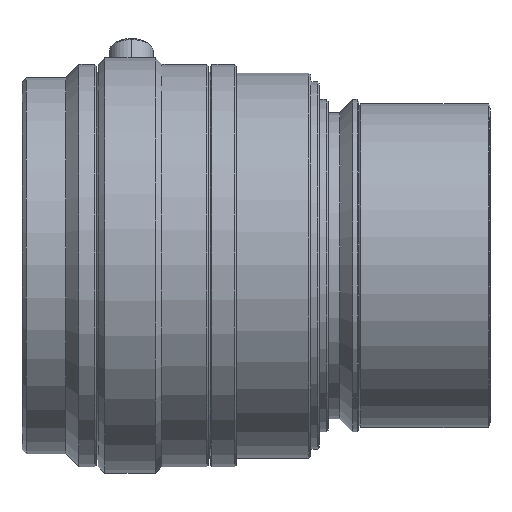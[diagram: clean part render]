
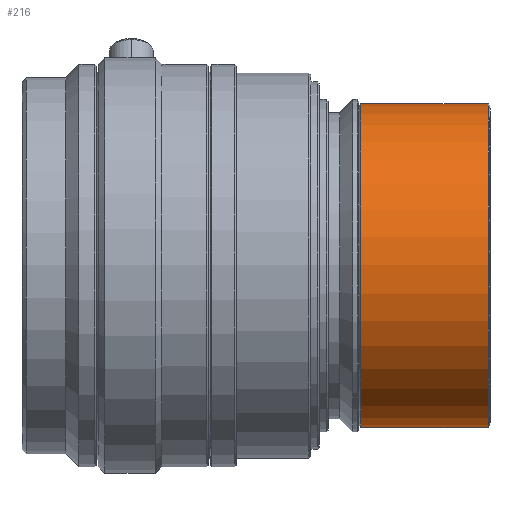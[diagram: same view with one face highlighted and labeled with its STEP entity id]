
A CAD part, top view. The second image highlights one B-rep face of the part: STEP entity #216.
In plain terms, the highlighted cylindrical face has radius 18.5 mm (diameter 37 mm), a partial arc.
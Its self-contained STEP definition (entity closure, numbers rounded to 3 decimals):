
#51 = EDGE_CURVE ( 'NONE', #1489, #254, #1299, .T. ) ;
#52 = EDGE_CURVE ( 'NONE', #1489, #1484, #1301, .T. ) ;
#56 = EDGE_CURVE ( 'NONE', #254, #1494, #1296, .T. ) ;
#58 = EDGE_CURVE ( 'NONE', #1484, #1494, #1302, .T. ) ;
#216 = ADVANCED_FACE ( 'NONE', ( #1888 ), #1892, .T. ) ;
#254 = VERTEX_POINT ( 'NONE', #2247 ) ;
#476 = ORIENTED_EDGE ( 'NONE', *, *, #51, .F. ) ;
#491 = ORIENTED_EDGE ( 'NONE', *, *, #58, .T. ) ;
#493 = ORIENTED_EDGE ( 'NONE', *, *, #56, .F. ) ;
#499 = ORIENTED_EDGE ( 'NONE', *, *, #52, .T. ) ;
#745 = AXIS2_PLACEMENT_3D ( 'NONE', #3123, #3124, #3125 ) ;
#748 = AXIS2_PLACEMENT_3D ( 'NONE', #3133, #3134, #3135 ) ;
#1132 = EDGE_LOOP ( 'NONE', ( #499, #491, #493, #476 ) ) ;
#1288 = VECTOR ( 'NONE', #3121, 1000. ) ;
#1296 = CIRCLE ( 'NONE', #748, 18.5 ) ;
#1299 = LINE ( 'NONE', #3120, #1288 ) ;
#1301 = CIRCLE ( 'NONE', #745, 18.5 ) ;
#1302 = LINE ( 'NONE', #3137, #1307 ) ;
#1307 = VECTOR ( 'NONE', #3132, 1000. ) ;
#1484 = VERTEX_POINT ( 'NONE', #2991 ) ;
#1489 = VERTEX_POINT ( 'NONE', #2996 ) ;
#1494 = VERTEX_POINT ( 'NONE', #3001 ) ;
#1610 = AXIS2_PLACEMENT_3D ( 'NONE', #2175, #2173, #2171 ) ;
#1888 = FACE_OUTER_BOUND ( 'NONE', #1132, .T. ) ;
#1892 = CYLINDRICAL_SURFACE ( 'NONE', #1610, 18.5 ) ;
#2171 = DIRECTION ( 'NONE',  ( 0., -1., 0. ) ) ;
#2173 = DIRECTION ( 'NONE',  ( -1., 0., 0. ) ) ;
#2175 = CARTESIAN_POINT ( 'NONE',  ( -138.5, 0., 0. ) ) ;
#2247 = CARTESIAN_POINT ( 'NONE',  ( -94.8, -18.5, 0. ) ) ;
#2991 = CARTESIAN_POINT ( 'NONE',  ( -80.2, 18.5, 0. ) ) ;
#2996 = CARTESIAN_POINT ( 'NONE',  ( -80.2, -18.5, 0. ) ) ;
#3001 = CARTESIAN_POINT ( 'NONE',  ( -94.8, 18.5, 0. ) ) ;
#3120 = CARTESIAN_POINT ( 'NONE',  ( -138.5, -18.5, 0. ) ) ;
#3121 = DIRECTION ( 'NONE',  ( -1., 0., 0. ) ) ;
#3123 = CARTESIAN_POINT ( 'NONE',  ( -80.2, 0., 0. ) ) ;
#3124 = DIRECTION ( 'NONE',  ( -1., 0., 0. ) ) ;
#3125 = DIRECTION ( 'NONE',  ( 0., -1., 0. ) ) ;
#3132 = DIRECTION ( 'NONE',  ( -1., 0., 0. ) ) ;
#3133 = CARTESIAN_POINT ( 'NONE',  ( -94.8, 0., 0. ) ) ;
#3134 = DIRECTION ( 'NONE',  ( -1., 0., 0. ) ) ;
#3135 = DIRECTION ( 'NONE',  ( 0., -1., 0. ) ) ;
#3137 = CARTESIAN_POINT ( 'NONE',  ( -138.5, 18.5, 0. ) ) ;
